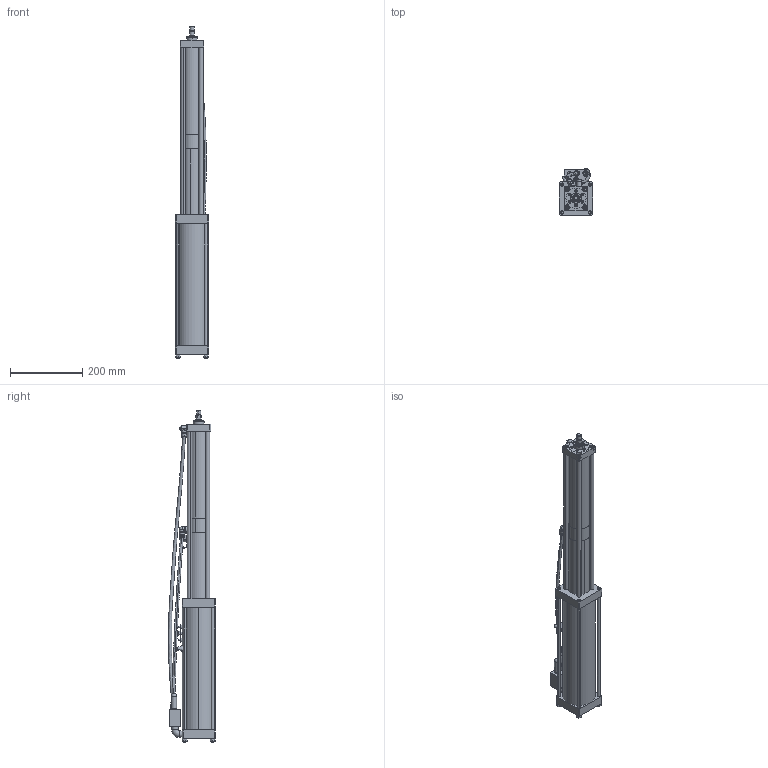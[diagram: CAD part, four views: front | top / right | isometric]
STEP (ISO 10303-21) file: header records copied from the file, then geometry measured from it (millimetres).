
FILE_DESCRIPTION (( 'STEP AP203' ), '1' );
FILE_NAME ('BS01-200-24S.step', '2025-07-31T09:39:21', ( 'Ranlm' ), ( '' ), 'SwSTEP 2.0', 'SolidWorks 2022', '' );
FILE_SCHEMA (( 'CONFIG_CONTROL_DESIGN' ));
Length unit declared in the file: millimetre
Products named in the file (1): BS01-200-24S
Bounding box: 92 x 128.96 x 916 mm (x, y, z)
Surface area: 425380.2 mm2 (no closed solid volume)
Topology: 0 solids, 49 shells, 480 faces, 1309 edges, 865 vertices
Faces by surface type: plane 207, cylinder 153, cone 84, torus 27, bspline 6, sphere 3
Entity records: 16482 total; most frequent: CARTESIAN_POINT 4121, DIRECTION 2757, ORIENTED_EDGE 2197, EDGE_CURVE 1299, AXIS2_PLACEMENT_3D 1049, VERTEX_POINT 862, LINE 659, VECTOR 659
